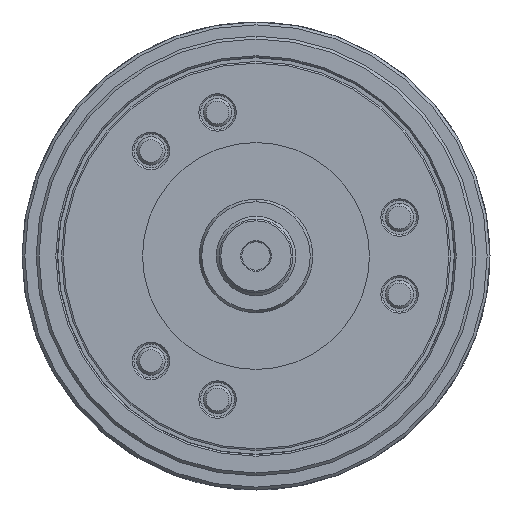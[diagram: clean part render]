
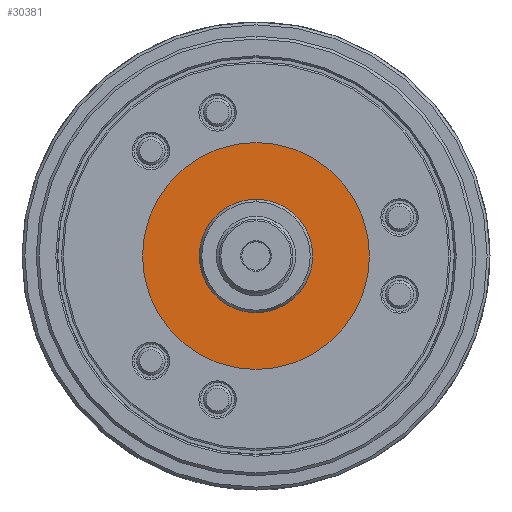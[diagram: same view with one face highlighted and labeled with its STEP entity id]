
A CAD part, left-side view. The second image highlights one B-rep face of the part: STEP entity #30381.
In plain terms, the highlighted planar face has unit normal (-1, 0, 0).
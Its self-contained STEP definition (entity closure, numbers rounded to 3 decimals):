
#1816 = ORIENTED_EDGE ( 'NONE', *, *, #26400, .T. ) ;
#4297 = FACE_BOUND ( 'NONE', #10558, .T. ) ;
#6141 = ORIENTED_EDGE ( 'NONE', *, *, #27868, .T. ) ;
#7627 = DIRECTION ( 'NONE',  ( 0., -0.5, -0.866 ) ) ;
#7904 = CARTESIAN_POINT ( 'NONE',  ( -71.3, 0., 0. ) ) ;
#8905 = AXIS2_PLACEMENT_3D ( 'NONE', #16329, #27677, #33375 ) ;
#10020 = DIRECTION ( 'NONE',  ( 0., -0.5, -0.866 ) ) ;
#10558 = EDGE_LOOP ( 'NONE', ( #6141, #1816 ) ) ;
#11639 = AXIS2_PLACEMENT_3D ( 'NONE', #7904, #13222, #15880 ) ;
#11865 = CARTESIAN_POINT ( 'NONE',  ( -71.3, -10., -17.321 ) ) ;
#12642 = AXIS2_PLACEMENT_3D ( 'NONE', #27602, #36324, #10020 ) ;
#12982 = CARTESIAN_POINT ( 'NONE',  ( -71.3, 10., 17.321 ) ) ;
#13222 = DIRECTION ( 'NONE',  ( 1., 0., 0. ) ) ;
#13651 = FACE_OUTER_BOUND ( 'NONE', #24334, .T. ) ;
#15008 = VERTEX_POINT ( 'NONE', #35189 ) ;
#15880 = DIRECTION ( 'NONE',  ( 0., -0.5, -0.866 ) ) ;
#16329 = CARTESIAN_POINT ( 'NONE',  ( -71.3, 0., 0. ) ) ;
#16492 = AXIS2_PLACEMENT_3D ( 'NONE', #21502, #29836, #36756 ) ;
#16623 = VERTEX_POINT ( 'NONE', #11865 ) ;
#16770 = ORIENTED_EDGE ( 'NONE', *, *, #24221, .F. ) ;
#16838 = CIRCLE ( 'NONE', #12642, 20. ) ;
#19353 = DIRECTION ( 'NONE',  ( 1., 0., 0. ) ) ;
#20438 = CIRCLE ( 'NONE', #22261, 20. ) ;
#21392 = ORIENTED_EDGE ( 'NONE', *, *, #29492, .F. ) ;
#21502 = CARTESIAN_POINT ( 'NONE',  ( -71.3, 20., 34.641 ) ) ;
#22206 = CIRCLE ( 'NONE', #8905, 40. ) ;
#22261 = AXIS2_PLACEMENT_3D ( 'NONE', #27487, #19353, #7627 ) ;
#23172 = CARTESIAN_POINT ( 'NONE',  ( -71.3, -20., -34.641 ) ) ;
#24221 = EDGE_CURVE ( 'NONE', #35558, #15008, #22206, .T. ) ;
#24334 = EDGE_LOOP ( 'NONE', ( #16770, #21392 ) ) ;
#25517 = CIRCLE ( 'NONE', #11639, 40. ) ;
#26400 = EDGE_CURVE ( 'NONE', #30424, #16623, #16838, .T. ) ;
#27353 = PLANE ( 'NONE',  #16492 ) ;
#27487 = CARTESIAN_POINT ( 'NONE',  ( -71.3, 0., 0. ) ) ;
#27602 = CARTESIAN_POINT ( 'NONE',  ( -71.3, 0., 0. ) ) ;
#27677 = DIRECTION ( 'NONE',  ( 1., 0., 0. ) ) ;
#27868 = EDGE_CURVE ( 'NONE', #16623, #30424, #20438, .T. ) ;
#29492 = EDGE_CURVE ( 'NONE', #15008, #35558, #25517, .T. ) ;
#29836 = DIRECTION ( 'NONE',  ( 1., 0., 0. ) ) ;
#30381 = ADVANCED_FACE ( 'NONE', ( #4297, #13651 ), #27353, .F. ) ;
#30424 = VERTEX_POINT ( 'NONE', #12982 ) ;
#33375 = DIRECTION ( 'NONE',  ( 0., -0.5, -0.866 ) ) ;
#35189 = CARTESIAN_POINT ( 'NONE',  ( -71.3, 20., 34.641 ) ) ;
#35558 = VERTEX_POINT ( 'NONE', #23172 ) ;
#36324 = DIRECTION ( 'NONE',  ( 1., 0., 0. ) ) ;
#36756 = DIRECTION ( 'NONE',  ( 0., -0.5, -0.866 ) ) ;
